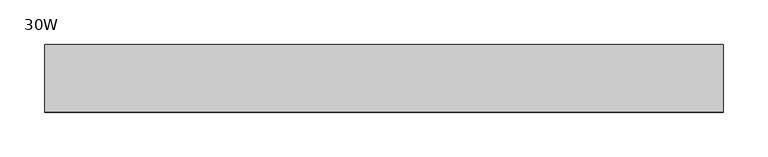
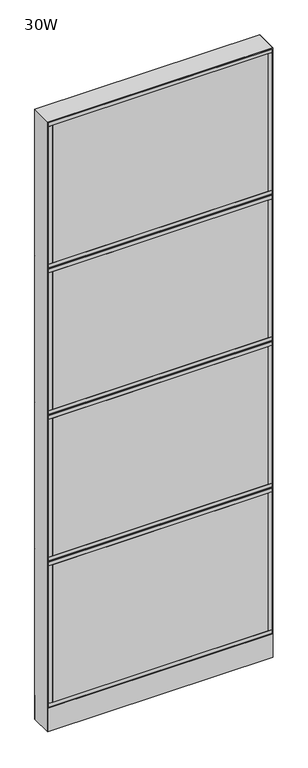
"""IFC4 building model written with IfcOpenShell, lengths in millimetres: furniture geometry, Steelcase - Montage - Frame - 86H - Enhanced Monolithic - Base Cavity : 30W."""

from ifc_helpers import new_model, si_unit, point, frame, frame_2d, origin, origin_with_axes, place, context, project, spatial, polyline, circle_curve, trimmed, segment, composite_curve, outline, extrude, faceted_brep, source, transform, mapped, element, save


def furniture_30w_07766502(model_context):
    return source(origin(), model_context, "Body", "SolidModel", [
        extrude(outline(polyline([(746.125, 38.1000015), (746.125, 31.7500017), (15.875, 31.7500017), (15.875, 38.1000015), (746.125, 38.1000015)])), frame((0.0, 0.0, 104.775), z_axis=(0.0, 0.0, 1.0), x_axis=(1.0, 0.0, 0.0)), (0.0, 0.0, 1.0), 492.125),
        extrude(outline(polyline([(746.125, -31.7499985), (746.125, -38.1000015), (15.875, -38.1000015), (15.875, -31.7499985), (746.125, -31.7499985)])), frame((0.0, 0.0, 104.775), z_axis=(0.0, 0.0, 1.0), x_axis=(1.0, 0.0, 0.0)), (0.0, 0.0, 1.0), 492.125),
        extrude(outline(polyline([(758.825, -38.1000015), (746.125, -38.1000015), (746.125, 38.1000015), (758.825, 38.1000015), (758.825, -38.1000015)])), frame((0.0, 0.0, 104.775), z_axis=(0.0, 0.0, 1.0), x_axis=(1.0, 0.0, 0.0)), (0.0, 0.0, 1.0), 492.125),
        extrude(outline(polyline([(15.875, -38.1000015), (3.175, -38.1000015), (3.175, 38.1000015), (15.875, 38.1000015), (15.875, -38.1000015)])), frame((0.0, 0.0, 104.775), z_axis=(0.0, 0.0, 1.0), x_axis=(1.0, 0.0, 0.0)), (0.0, 0.0, 1.0), 492.125),
        extrude(outline(polyline([(758.825, -38.1000015), (3.175, -38.1000015), (3.175, 38.1000015), (758.825, 38.1000015), (758.825, -38.1000015)])), frame((0.0, 0.0, 92.075), z_axis=(0.0, 0.0, 1.0), x_axis=(1.0, 0.0, 0.0)), (0.0, 0.0, 1.0), 12.7),
        extrude(outline(polyline([(758.825, -38.1000015), (3.175, -38.1000015), (3.175, 38.1000015), (758.825, 38.1000015), (758.825, -38.1000015)])), frame((0.0, 0.0, 596.9), z_axis=(0.0, 0.0, 1.0), x_axis=(1.0, 0.0, 0.0)), (0.0, 0.0, 1.0), 12.7),
        extrude(outline(polyline([(746.125, 38.1000015), (746.125, 31.7500017), (15.875, 31.7500017), (15.875, 38.1000015), (746.125, 38.1000015)])), frame((0.0, 0.0, 628.65), z_axis=(0.0, 0.0, 1.0), x_axis=(1.0, 0.0, 0.0)), (0.0, 0.0, 1.0), 492.125),
        extrude(outline(polyline([(746.125, -31.7499985), (746.125, -38.1000015), (15.875, -38.1000015), (15.875, -31.7499985), (746.125, -31.7499985)])), frame((0.0, 0.0, 628.65), z_axis=(0.0, 0.0, 1.0), x_axis=(1.0, 0.0, 0.0)), (0.0, 0.0, 1.0), 492.125),
        extrude(outline(polyline([(758.825, -38.1000015), (746.125, -38.1000015), (746.125, 38.1000015), (758.825, 38.1000015), (758.825, -38.1000015)])), frame((0.0, 0.0, 628.65), z_axis=(0.0, 0.0, 1.0), x_axis=(1.0, 0.0, 0.0)), (0.0, 0.0, 1.0), 492.125),
        extrude(outline(polyline([(15.875, -38.1000015), (3.175, -38.1000015), (3.175, 38.1000015), (15.875, 38.1000015), (15.875, -38.1000015)])), frame((0.0, 0.0, 628.65), z_axis=(0.0, 0.0, 1.0), x_axis=(1.0, 0.0, 0.0)), (0.0, 0.0, 1.0), 492.125),
        extrude(outline(polyline([(758.825, -38.1000015), (3.175, -38.1000015), (3.175, 38.1000015), (758.825, 38.1000015), (758.825, -38.1000015)])), frame((0.0, 0.0, 615.95), z_axis=(0.0, 0.0, 1.0), x_axis=(1.0, 0.0, 0.0)), (0.0, 0.0, 1.0), 12.7),
        extrude(outline(polyline([(758.825, -38.1000015), (3.175, -38.1000015), (3.175, 38.1000015), (758.825, 38.1000015), (758.825, -38.1000015)])), frame((0.0, 0.0, 1120.775), z_axis=(0.0, 0.0, 1.0), x_axis=(1.0, 0.0, 0.0)), (0.0, 0.0, 1.0), 12.7),
        faceted_brep([(-5.4e-06, 38.102627, 612.7750027), (6.3499917, 31.7526299, 619.1249997), (755.6500047, 31.7526299, 619.1249997), (762.0, 38.1026253, 612.7750044), (755.6500047, 31.7526299, 606.4250003), (6.3499917, 31.7526299, 606.4250003)], [[[0, 1, 2, 3]], [[3, 4, 5, 0]], [[1, 5, 4, 2]], [[0, 5, 1]], [[2, 4, 3]]]),
        extrude(outline(polyline([(746.125, 38.1000015), (746.125, 31.7500017), (15.875, 31.7500017), (15.875, 38.1000015), (746.125, 38.1000015)])), frame((0.0, 0.0, 1152.525), z_axis=(0.0, 0.0, 1.0), x_axis=(1.0, 0.0, 0.0)), (0.0, 0.0, 1.0), 492.125),
        extrude(outline(polyline([(746.125, -31.7499985), (746.125, -38.1000015), (15.875, -38.1000015), (15.875, -31.7499985), (746.125, -31.7499985)])), frame((0.0, 0.0, 1152.525), z_axis=(0.0, 0.0, 1.0), x_axis=(1.0, 0.0, 0.0)), (0.0, 0.0, 1.0), 492.125),
        extrude(outline(polyline([(758.825, -38.1000015), (746.125, -38.1000015), (746.125, 38.1000015), (758.825, 38.1000015), (758.825, -38.1000015)])), frame((0.0, 0.0, 1152.525), z_axis=(0.0, 0.0, 1.0), x_axis=(1.0, 0.0, 0.0)), (0.0, 0.0, 1.0), 492.125),
        extrude(outline(polyline([(15.875, -38.1000015), (3.175, -38.1000015), (3.175, 38.1000015), (15.875, 38.1000015), (15.875, -38.1000015)])), frame((0.0, 0.0, 1152.525), z_axis=(0.0, 0.0, 1.0), x_axis=(1.0, 0.0, 0.0)), (0.0, 0.0, 1.0), 492.125),
        extrude(outline(polyline([(758.825, -38.1000015), (3.175, -38.1000015), (3.175, 38.1000015), (758.825, 38.1000015), (758.825, -38.1000015)])), frame((0.0, 0.0, 1139.825), z_axis=(0.0, 0.0, 1.0), x_axis=(1.0, 0.0, 0.0)), (0.0, 0.0, 1.0), 12.7),
        extrude(outline(polyline([(758.825, -38.1000015), (3.175, -38.1000015), (3.175, 38.1000015), (758.825, 38.1000015), (758.825, -38.1000015)])), frame((0.0, 0.0, 1644.65), z_axis=(0.0, 0.0, 1.0), x_axis=(1.0, 0.0, 0.0)), (0.0, 0.0, 1.0), 12.7),
        extrude(outline(polyline([(746.125, 38.1000015), (746.125, 31.7500017), (15.875, 31.7500017), (15.875, 38.1000015), (746.125, 38.1000015)])), frame((0.0, 0.0, 1676.4), z_axis=(0.0, 0.0, 1.0), x_axis=(1.0, 0.0, 0.0)), (0.0, 0.0, 1.0), 492.125),
        extrude(outline(polyline([(746.125, -31.7499985), (746.125, -38.1000015), (15.875, -38.1000015), (15.875, -31.7499985), (746.125, -31.7499985)])), frame((0.0, 0.0, 1676.4), z_axis=(0.0, 0.0, 1.0), x_axis=(1.0, 0.0, 0.0)), (0.0, 0.0, 1.0), 492.125),
        extrude(outline(polyline([(758.825, -38.1000015), (746.125, -38.1000015), (746.125, 38.1000015), (758.825, 38.1000015), (758.825, -38.1000015)])), frame((0.0, 0.0, 1676.4), z_axis=(0.0, 0.0, 1.0), x_axis=(1.0, 0.0, 0.0)), (0.0, 0.0, 1.0), 492.125),
        extrude(outline(polyline([(15.875, -38.1000015), (3.175, -38.1000015), (3.175, 38.1000015), (15.875, 38.1000015), (15.875, -38.1000015)])), frame((0.0, 0.0, 1676.4), z_axis=(0.0, 0.0, 1.0), x_axis=(1.0, 0.0, 0.0)), (0.0, 0.0, 1.0), 492.125),
        extrude(outline(polyline([(758.825, -38.1000015), (3.175, -38.1000015), (3.175, 38.1000015), (758.825, 38.1000015), (758.825, -38.1000015)])), frame((0.0, 0.0, 1663.7), z_axis=(0.0, 0.0, 1.0), x_axis=(1.0, 0.0, 0.0)), (0.0, 0.0, 1.0), 12.7),
        extrude(outline(polyline([(758.825, -38.1000015), (3.175, -38.1000015), (3.175, 38.1000015), (758.825, 38.1000015), (758.825, -38.1000015)])), frame((0.0, 0.0, 2168.525), z_axis=(0.0, 0.0, 1.0), x_axis=(1.0, 0.0, 0.0)), (0.0, 0.0, 1.0), 12.7),
        faceted_brep([(-5.4e-06, 38.102627, 1136.6500027), (6.3499917, 31.7526299, 1142.9999997), (755.6500047, 31.7526299, 1142.9999997), (762.0, 38.1026253, 1136.6500044), (755.6500047, 31.7526299, 1130.3000003), (6.3499917, 31.7526299, 1130.3000003)], [[[0, 1, 2, 3]], [[3, 4, 5, 0]], [[1, 5, 4, 2]], [[0, 5, 1]], [[2, 4, 3]]]),
        faceted_brep([(-5.4e-06, 38.102627, 1660.5250027), (6.3499917, 31.7526299, 1666.8749997), (755.6500047, 31.7526299, 1666.8749997), (762.0, 38.1026253, 1660.5250044), (755.6500047, 31.7526299, 1654.1750003), (6.3499917, 31.7526299, 1654.1750003)], [[[0, 1, 2, 3]], [[3, 4, 5, 0]], [[1, 5, 4, 2]], [[0, 5, 1]], [[2, 4, 3]]]),
        extrude(outline(polyline([(746.125, -38.1000015), (15.875, -38.1000015), (15.875, -31.7500017), (746.125, -31.7500017), (746.125, -38.1000015)])), frame((0.0, 0.0, 104.775), z_axis=(0.0, 0.0, 1.0), x_axis=(1.0, 0.0, 0.0)), (0.0, 0.0, 1.0), 492.125),
        extrude(outline(polyline([(746.125, 31.7499985), (15.875, 31.7499985), (15.875, 38.1000015), (746.125, 38.1000015), (746.125, 31.7499985)])), frame((0.0, 0.0, 104.775), z_axis=(0.0, 0.0, 1.0), x_axis=(1.0, 0.0, 0.0)), (0.0, 0.0, 1.0), 492.125),
        extrude(outline(polyline([(758.825, 38.1000015), (758.825, -38.1000015), (746.125, -38.1000015), (746.125, 38.1000015), (758.825, 38.1000015)])), frame((0.0, 0.0, 104.775), z_axis=(0.0, 0.0, 1.0), x_axis=(1.0, 0.0, 0.0)), (0.0, 0.0, 1.0), 492.125),
        extrude(outline(polyline([(15.875, 38.1000015), (15.875, -38.1000015), (3.175, -38.1000015), (3.175, 38.1000015), (15.875, 38.1000015)])), frame((0.0, 0.0, 104.775), z_axis=(0.0, 0.0, 1.0), x_axis=(1.0, 0.0, 0.0)), (0.0, 0.0, 1.0), 492.125),
        extrude(outline(polyline([(758.825, 38.1000015), (758.825, -38.1000015), (3.175, -38.1000015), (3.175, 38.1000015), (758.825, 38.1000015)])), frame((0.0, 0.0, 92.075), z_axis=(0.0, 0.0, 1.0), x_axis=(1.0, 0.0, 0.0)), (0.0, 0.0, 1.0), 12.7),
        extrude(outline(polyline([(758.825, 38.1000015), (758.825, -38.1000015), (3.175, -38.1000015), (3.175, 38.1000015), (758.825, 38.1000015)])), frame((0.0, 0.0, 596.9), z_axis=(0.0, 0.0, 1.0), x_axis=(1.0, 0.0, 0.0)), (0.0, 0.0, 1.0), 12.7),
        extrude(outline(polyline([(746.125, -38.1000015), (15.875, -38.1000015), (15.875, -31.7500017), (746.125, -31.7500017), (746.125, -38.1000015)])), frame((0.0, 0.0, 628.65), z_axis=(0.0, 0.0, 1.0), x_axis=(1.0, 0.0, 0.0)), (0.0, 0.0, 1.0), 492.125),
        extrude(outline(polyline([(746.125, 31.7499985), (15.875, 31.7499985), (15.875, 38.1000015), (746.125, 38.1000015), (746.125, 31.7499985)])), frame((0.0, 0.0, 628.65), z_axis=(0.0, 0.0, 1.0), x_axis=(1.0, 0.0, 0.0)), (0.0, 0.0, 1.0), 492.125),
        extrude(outline(polyline([(758.825, 38.1000015), (758.825, -38.1000015), (746.125, -38.1000015), (746.125, 38.1000015), (758.825, 38.1000015)])), frame((0.0, 0.0, 628.65), z_axis=(0.0, 0.0, 1.0), x_axis=(1.0, 0.0, 0.0)), (0.0, 0.0, 1.0), 492.125),
        extrude(outline(polyline([(15.875, 38.1000015), (15.875, -38.1000015), (3.175, -38.1000015), (3.175, 38.1000015), (15.875, 38.1000015)])), frame((0.0, 0.0, 628.65), z_axis=(0.0, 0.0, 1.0), x_axis=(1.0, 0.0, 0.0)), (0.0, 0.0, 1.0), 492.125),
        extrude(outline(polyline([(758.825, 38.1000015), (758.825, -38.1000015), (3.175, -38.1000015), (3.175, 38.1000015), (758.825, 38.1000015)])), frame((0.0, 0.0, 615.95), z_axis=(0.0, 0.0, 1.0), x_axis=(1.0, 0.0, 0.0)), (0.0, 0.0, 1.0), 12.7),
        extrude(outline(polyline([(758.825, 38.1000015), (758.825, -38.1000015), (3.175, -38.1000015), (3.175, 38.1000015), (758.825, 38.1000015)])), frame((0.0, 0.0, 1120.775), z_axis=(0.0, 0.0, 1.0), x_axis=(1.0, 0.0, 0.0)), (0.0, 0.0, 1.0), 12.7),
        faceted_brep([(0.0, -38.1026297, 612.775), (762.0, -38.1026297, 612.775), (755.6500047, -31.7526299, 619.1249997), (6.3499917, -31.7526299, 619.1249997), (6.3499917, -31.7526299, 606.4250003), (755.6500047, -31.7526299, 606.4250003)], [[[0, 1, 2, 3]], [[1, 0, 4, 5]], [[3, 2, 5, 4]], [[0, 3, 4]], [[2, 1, 5]]]),
        extrude(outline(polyline([(746.125, -38.1000015), (15.875, -38.1000015), (15.875, -31.7500017), (746.125, -31.7500017), (746.125, -38.1000015)])), frame((0.0, 0.0, 1152.525), z_axis=(0.0, 0.0, 1.0), x_axis=(1.0, 0.0, 0.0)), (0.0, 0.0, 1.0), 492.125),
        extrude(outline(polyline([(746.125, 31.7499985), (15.875, 31.7499985), (15.875, 38.1000015), (746.125, 38.1000015), (746.125, 31.7499985)])), frame((0.0, 0.0, 1152.525), z_axis=(0.0, 0.0, 1.0), x_axis=(1.0, 0.0, 0.0)), (0.0, 0.0, 1.0), 492.125),
        extrude(outline(polyline([(758.825, 38.1000015), (758.825, -38.1000015), (746.125, -38.1000015), (746.125, 38.1000015), (758.825, 38.1000015)])), frame((0.0, 0.0, 1152.525), z_axis=(0.0, 0.0, 1.0), x_axis=(1.0, 0.0, 0.0)), (0.0, 0.0, 1.0), 492.125),
        extrude(outline(polyline([(15.875, 38.1000015), (15.875, -38.1000015), (3.175, -38.1000015), (3.175, 38.1000015), (15.875, 38.1000015)])), frame((0.0, 0.0, 1152.525), z_axis=(0.0, 0.0, 1.0), x_axis=(1.0, 0.0, 0.0)), (0.0, 0.0, 1.0), 492.125),
        extrude(outline(polyline([(758.825, 38.1000015), (758.825, -38.1000015), (3.175, -38.1000015), (3.175, 38.1000015), (758.825, 38.1000015)])), frame((0.0, 0.0, 1139.825), z_axis=(0.0, 0.0, 1.0), x_axis=(1.0, 0.0, 0.0)), (0.0, 0.0, 1.0), 12.7),
        extrude(outline(polyline([(758.825, 38.1000015), (758.825, -38.1000015), (3.175, -38.1000015), (3.175, 38.1000015), (758.825, 38.1000015)])), frame((0.0, 0.0, 1644.65), z_axis=(0.0, 0.0, 1.0), x_axis=(1.0, 0.0, 0.0)), (0.0, 0.0, 1.0), 12.7),
        extrude(outline(polyline([(746.125, -38.1000015), (15.875, -38.1000015), (15.875, -31.7500017), (746.125, -31.7500017), (746.125, -38.1000015)])), frame((0.0, 0.0, 1676.4), z_axis=(0.0, 0.0, 1.0), x_axis=(1.0, 0.0, 0.0)), (0.0, 0.0, 1.0), 492.125),
        extrude(outline(polyline([(746.125, 31.7499985), (15.875, 31.7499985), (15.875, 38.1000015), (746.125, 38.1000015), (746.125, 31.7499985)])), frame((0.0, 0.0, 1676.4), z_axis=(0.0, 0.0, 1.0), x_axis=(1.0, 0.0, 0.0)), (0.0, 0.0, 1.0), 492.125),
        extrude(outline(polyline([(758.825, 38.1000015), (758.825, -38.1000015), (746.125, -38.1000015), (746.125, 38.1000015), (758.825, 38.1000015)])), frame((0.0, 0.0, 1676.4), z_axis=(0.0, 0.0, 1.0), x_axis=(1.0, 0.0, 0.0)), (0.0, 0.0, 1.0), 492.125),
        extrude(outline(polyline([(15.875, 38.1000015), (15.875, -38.1000015), (3.175, -38.1000015), (3.175, 38.1000015), (15.875, 38.1000015)])), frame((0.0, 0.0, 1676.4), z_axis=(0.0, 0.0, 1.0), x_axis=(1.0, 0.0, 0.0)), (0.0, 0.0, 1.0), 492.125),
        extrude(outline(polyline([(758.825, 38.1000015), (758.825, -38.1000015), (3.175, -38.1000015), (3.175, 38.1000015), (758.825, 38.1000015)])), frame((0.0, 0.0, 1663.7), z_axis=(0.0, 0.0, 1.0), x_axis=(1.0, 0.0, 0.0)), (0.0, 0.0, 1.0), 12.7),
        extrude(outline(polyline([(758.825, 38.1000015), (758.825, -38.1000015), (3.175, -38.1000015), (3.175, 38.1000015), (758.825, 38.1000015)])), frame((0.0, 0.0, 2168.525), z_axis=(0.0, 0.0, 1.0), x_axis=(1.0, 0.0, 0.0)), (0.0, 0.0, 1.0), 12.7),
        faceted_brep([(0.0, -38.1026297, 1136.65), (762.0, -38.1026297, 1136.65), (755.6500047, -31.7526299, 1142.9999997), (6.3499917, -31.7526299, 1142.9999997), (6.3499917, -31.7526299, 1130.3000003), (755.6500047, -31.7526299, 1130.3000003)], [[[0, 1, 2, 3]], [[1, 0, 4, 5]], [[3, 2, 5, 4]], [[0, 3, 4]], [[2, 1, 5]]]),
        faceted_brep([(0.0, -38.1026297, 1660.525), (762.0, -38.1026297, 1660.525), (755.6500047, -31.7526299, 1666.8749997), (6.3499917, -31.7526299, 1666.8749997), (6.3499917, -31.7526299, 1654.1750003), (755.6500047, -31.7526299, 1654.1750003)], [[[0, 1, 2, 3]], [[1, 0, 4, 5]], [[3, 2, 5, 4]], [[0, 3, 4]], [[2, 1, 5]]]),
        extrude(outline(polyline([(6.350003, -31.7499985), (755.649997, -31.7499985), (762.0, -38.1000015), (0.0, -38.1000015), (6.350003, -31.7499985)])), frame((0.0, 0.0, 4.064), z_axis=(0.0, 0.0, 1.0), x_axis=(1.0, 0.0, 0.0)), (0.0, 0.0, 1.0), 84.835997),
        extrude(outline(polyline([(6.3500002, 31.7500017), (0.0, 38.1000015), (762.0, 38.1000015), (755.6500002, 31.7500017), (6.3500002, 31.7500017)])), frame((0.0, 0.0, 4.064), z_axis=(0.0, 0.0, 1.0), x_axis=(1.0, 0.0, 0.0)), (0.0, 0.0, 1.0), 84.835997),
        faceted_brep([(762.0, -38.1000015, 2184.4), (0.0, -38.1000015, 2184.4), (6.3500484, -31.749953, 2178.0499516), (755.6499516, -31.749953, 2178.0499516), (6.3500484, 31.749953, 2178.0499516), (755.6499516, 31.749953, 2178.0499516), (0.0, 38.1000015, 2184.4), (762.0, 38.1000015, 2184.4)], [[[0, 1, 2, 3]], [[3, 2, 4, 5]], [[6, 7, 5, 4]], [[1, 0, 7, 6]], [[2, 1, 6, 4]], [[0, 3, 5, 7]]]),
        extrude(outline(composite_curve([segment(trimmed(circle_curve(frame_2d((44.45, 0.0)), 15.24), [point((29.21, 0.0))], [point((59.69, 0.0))], False, "CARTESIAN"), True, "CONTINUOUS"), segment(trimmed(circle_curve(frame_2d((44.45, 0.0)), 15.24), [point((59.69, 0.0))], [point((29.21, 0.0))], False, "CARTESIAN"), True, "CONTINUOUS")], self_intersect=False)), origin_with_axes(), (0.0, 0.0, 1.0), 4.064),
        extrude(outline(composite_curve([segment(trimmed(circle_curve(frame_2d((717.55, 0.0)), 15.24), [point((702.31, 0.0))], [point((732.79, 0.0))], False, "CARTESIAN"), True, "CONTINUOUS"), segment(trimmed(circle_curve(frame_2d((717.55, 0.0)), 15.24), [point((732.79, 0.0))], [point((702.31, 0.0))], False, "CARTESIAN"), True, "CONTINUOUS")], self_intersect=False)), origin_with_axes(), (0.0, 0.0, 1.0), 4.064),
        faceted_brep([(762.0, -38.1000106, 4.064), (762.0, 38.1000015, 4.064), (762.0, 38.1000015, 2184.4), (762.0, -38.1000106, 2184.3999637), (0.0, 38.1000015, 4.064), (0.0, -38.1000015, 4.064), (0.0, -38.1000015, 2184.4), (0.0, 38.1000015, 2184.4), (755.6499879, 31.7500017, 606.425), (6.35, 31.7500017, 606.425), (6.3499998, 31.7500017, 619.125), (755.6499879, 31.7500017, 619.125), (6.35, -31.7499985, 619.125), (755.6499879, -31.7499985, 619.125), (6.350003, -31.7499985, 606.425), (755.6499879, -31.7499985, 606.425), (755.6499879, 31.7500017, 1130.3), (6.35, 31.7500017, 1130.3), (6.3499998, 31.7500017, 1143.0), (755.6499879, 31.7500017, 1143.0), (6.35, -31.7499985, 1143.0), (755.6499879, -31.7499985, 1143.0), (6.350003, -31.7499985, 1130.3), (755.6499879, -31.7499985, 1130.3), (755.6499879, 31.7500017, 1654.175), (6.35, 31.7500017, 1654.175), (6.3499998, 31.7500017, 1666.875), (755.6499879, 31.7500017, 1666.875), (6.35, -31.7499985, 1666.875), (755.6499879, -31.7499985, 1666.875), (6.350003, -31.7499985, 1654.175), (755.6499879, -31.7499985, 1654.175), (6.35, 31.7500015, 4.064), (6.35, -31.7500015, 4.064), (755.6499879, 31.7499894, 4.064), (755.6499879, -31.7499985, 4.064), (6.35, 31.7500015, 2178.05), (6.35, -31.7500015, 2178.05), (755.6499879, -31.7499985, 2178.0499516), (755.6499879, 31.7499895, 2178.0499516)], [[[0, 1, 2, 3]], [[4, 5, 6, 7]], [[8, 9, 10, 11]], [[11, 10, 12, 13]], [[13, 12, 14, 15]], [[9, 8, 15, 14]], [[16, 17, 18, 19]], [[19, 18, 20, 21]], [[21, 20, 22, 23]], [[17, 16, 23, 22]], [[24, 25, 26, 27]], [[27, 26, 28, 29]], [[29, 28, 30, 31]], [[25, 24, 31, 30]], [[32, 33, 5, 4]], [[34, 1, 0, 35]], [[32, 4, 7, 36, 26, 25, 18, 17, 10, 9]], [[5, 33, 14, 12, 22, 20, 30, 28, 37, 6]], [[33, 32, 9, 14]], [[10, 17, 22, 12]], [[18, 25, 30, 20]], [[28, 26, 36, 37]], [[34, 35, 15, 8]], [[16, 11, 13, 23]], [[24, 19, 21, 31]], [[27, 29, 38, 39]], [[35, 0, 3, 38, 29, 31, 21, 23, 13, 15]], [[1, 34, 8, 11, 16, 19, 24, 27, 39, 2]], [[7, 6, 37, 36]], [[3, 2, 39, 38]]]),
    ])


if __name__ == "__main__":
    model = new_model("IFC4")
    model_context = context("Model", 3, world=origin())
    ifc_project = project(units=[si_unit("LENGTHUNIT", "METRE", prefix="MILLI")], contexts=[model_context])
    site = spatial("IfcSite", under=ifc_project)
    building = spatial("IfcBuilding", under=site)
    placement = place(None, origin())
    furniture_30w_shape = furniture_30w_07766502(model_context)
    element("IfcFurniture", 1, ObjectType="Steelcase - Montage - Frame - 86H - Enhanced Monolithic - Base Cavity : 30W", at=placement, inside=building, context=model_context, shape_type="MappedRepresentation", body=[
        mapped(furniture_30w_shape, transform((0.0, 0.0, 0.0), x_axis=(1.0, 0.0, 0.0), y_axis=(0.0, 1.0, 0.0), z_axis=(0.0, 0.0, 1.0))),
    ])
    save(model, "model.ifc")
